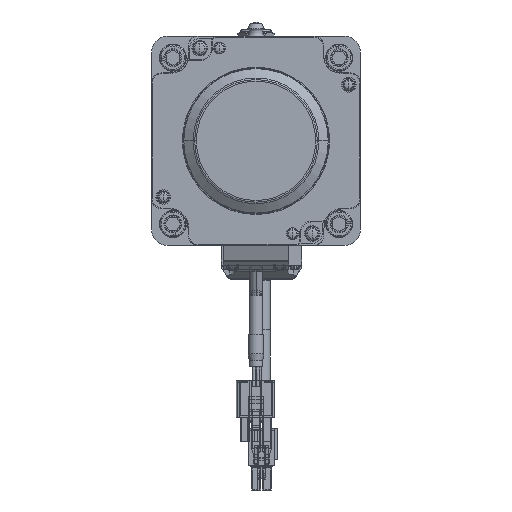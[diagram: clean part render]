
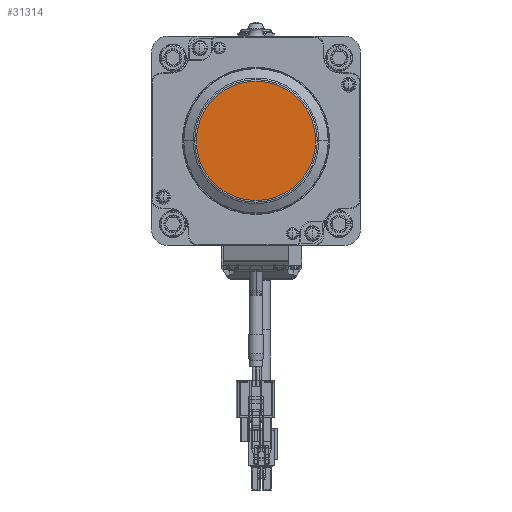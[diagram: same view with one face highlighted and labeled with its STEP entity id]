
A CAD part, front view. The second image highlights one B-rep face of the part: STEP entity #31314.
In plain terms, the highlighted planar face has unit normal (0, -1, 0) as drawn and (-1, 0, 0) by its records, which use the part's own axes.
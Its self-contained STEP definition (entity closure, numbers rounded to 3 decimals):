
#24295=CARTESIAN_POINT('',(-91.9,0.,0.));
#24296=DIRECTION('',(-1.,0.,0.));
#24297=DIRECTION('',(0.,0.,-1.));
#24298=AXIS2_PLACEMENT_3D('',#24295,#24296,#24297);
#24300=CARTESIAN_POINT('',(-91.9,0.,0.));
#24301=DIRECTION('',(-1.,0.,0.));
#24302=DIRECTION('',(0.,0.,1.));
#24303=AXIS2_PLACEMENT_3D('',#24300,#24301,#24302);
#26127=CARTESIAN_POINT('',(-91.9,0.,-22.84));
#26129=VERTEX_POINT('',#26127);
#26133=CARTESIAN_POINT('',(-91.9,0.,22.84));
#26134=VERTEX_POINT('',#26133);
#31304=CARTESIAN_POINT('',(-91.9,-22.,36.));
#31305=DIRECTION('',(1.,0.,0.));
#31306=DIRECTION('',(0.,0.,-1.));
#31307=AXIS2_PLACEMENT_3D('',#31304,#31305,#31306);
#31308=PLANE('',#31307);
#31309=ORIENTED_EDGE('',*,*,#31294,.F.);
#31311=ORIENTED_EDGE('',*,*,#31310,.F.);
#31312=EDGE_LOOP('',(#31309,#31311));
#31313=FACE_OUTER_BOUND('',#31312,.F.);
#31314=ADVANCED_FACE('',(#31313),#31308,.F.);
#24299=CIRCLE('',#24298,22.84);
#24304=CIRCLE('',#24303,22.84);
#31294=EDGE_CURVE('',#26129,#26134,#24299,.T.);
#31310=EDGE_CURVE('',#26134,#26129,#24304,.T.);
